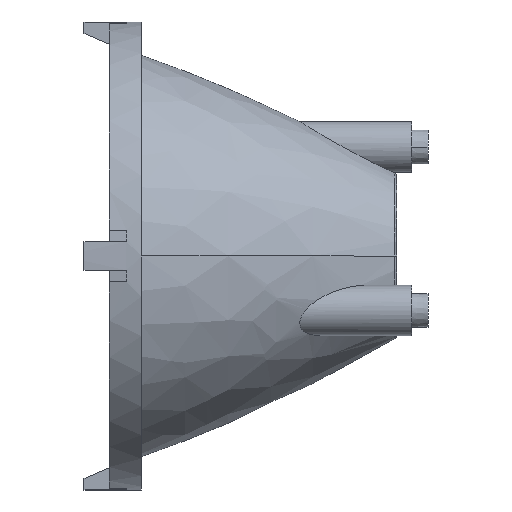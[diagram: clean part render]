
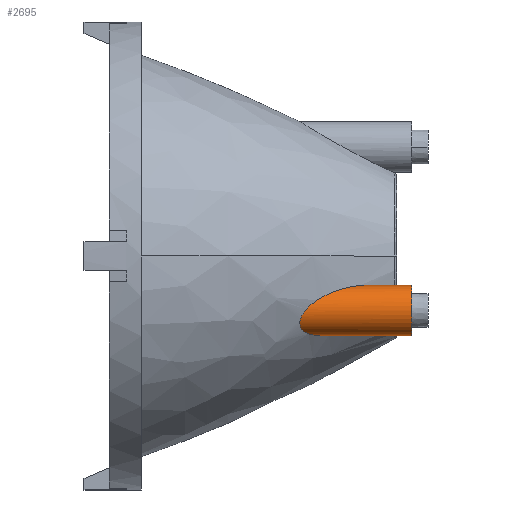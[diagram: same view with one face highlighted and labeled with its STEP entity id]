
A CAD part, left-side view. The second image highlights one B-rep face of the part: STEP entity #2695.
In plain terms, the highlighted cylindrical face has radius 2.2 mm (diameter 4.4 mm), a partial arc.
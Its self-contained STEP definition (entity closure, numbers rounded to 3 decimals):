
#99 = CARTESIAN_POINT ( 'NONE',  ( -8.455, -2.55, -3.703 ) ) ;
#100 = CARTESIAN_POINT ( 'NONE',  ( -8.671, -2.585, -4.092 ) ) ;
#101 = CARTESIAN_POINT ( 'NONE',  ( -9.078, -2.71, -4.869 ) ) ;
#102 = CARTESIAN_POINT ( 'NONE',  ( -9.271, -2.801, -5.257 ) ) ;
#103 = CARTESIAN_POINT ( 'NONE',  ( -9.631, -3.042, -6.033 ) ) ;
#104 = CARTESIAN_POINT ( 'NONE',  ( -9.8, -3.194, -6.423 ) ) ;
#105 = CARTESIAN_POINT ( 'NONE',  ( -8.755, -6.89, -8.04 ) ) ;
#106 = CARTESIAN_POINT ( 'NONE',  ( -8.484, -6.939, -7.685 ) ) ;
#107 = B_SPLINE_CURVE_WITH_KNOTS ( 'NONE', 3,
 ( #113, #112, #106, #105, #117, #174, #173, #172, #171, #142, #141, #140, #116, #115, #114, #135, #134, #133, #132, #111, #110, #109, #108, #104, #103, #102, #101, #100, #99, #170 ),
 .UNSPECIFIED., .F., .F.,
 ( 4, 2, 2, 2, 2, 2, 2, 2, 2, 2, 2, 2, 2, 2, 4 ),
 ( 0.007, 0.007, 0.008, 0.009, 0.009, 0.009, 0.01, 0.01, 0.011, 0.011, 0.012, 0.013, 0.015, 0.016, 0.017 ),
 .UNSPECIFIED. ) ;
#108 = CARTESIAN_POINT ( 'NONE',  ( -10.092, -3.56, -7.18 ) ) ;
#109 = CARTESIAN_POINT ( 'NONE',  ( -10.219, -3.775, -7.551 ) ) ;
#110 = CARTESIAN_POINT ( 'NONE',  ( -10.354, -4.17, -8.081 ) ) ;
#111 = CARTESIAN_POINT ( 'NONE',  ( -10.389, -4.311, -8.251 ) ) ;
#112 = CARTESIAN_POINT ( 'NONE',  ( -8.353, -6.95, -7.502 ) ) ;
#113 = CARTESIAN_POINT ( 'NONE',  ( -8.227, -6.95, -7.316 ) ) ;
#114 = CARTESIAN_POINT ( 'NONE',  ( -10.226, -5.676, -9.148 ) ) ;
#115 = CARTESIAN_POINT ( 'NONE',  ( -10.176, -5.776, -9.16 ) ) ;
#116 = CARTESIAN_POINT ( 'NONE',  ( -10.061, -5.97, -9.156 ) ) ;
#117 = CARTESIAN_POINT ( 'NONE',  ( -8.896, -6.852, -8.213 ) ) ;
#132 = CARTESIAN_POINT ( 'NONE',  ( -10.429, -4.622, -8.569 ) ) ;
#133 = CARTESIAN_POINT ( 'NONE',  ( -10.435, -4.794, -8.719 ) ) ;
#134 = CARTESIAN_POINT ( 'NONE',  ( -10.396, -5.165, -8.97 ) ) ;
#135 = CARTESIAN_POINT ( 'NONE',  ( -10.35, -5.368, -9.072 ) ) ;
#140 = CARTESIAN_POINT ( 'NONE',  ( -9.996, -6.063, -9.139 ) ) ;
#141 = CARTESIAN_POINT ( 'NONE',  ( -9.859, -6.229, -9.081 ) ) ;
#142 = CARTESIAN_POINT ( 'NONE',  ( -9.786, -6.306, -9.04 ) ) ;
#170 = CARTESIAN_POINT ( 'NONE',  ( -8.227, -2.55, -3.317 ) ) ;
#171 = CARTESIAN_POINT ( 'NONE',  ( -9.637, -6.442, -8.939 ) ) ;
#172 = CARTESIAN_POINT ( 'NONE',  ( -9.561, -6.502, -8.88 ) ) ;
#173 = CARTESIAN_POINT ( 'NONE',  ( -9.334, -6.66, -8.686 ) ) ;
#174 = CARTESIAN_POINT ( 'NONE',  ( -9.185, -6.737, -8.535 ) ) ;
#1173 = CARTESIAN_POINT ( 'NONE',  ( -8.227, -4.75, 0.62 ) ) ;
#1176 = DIRECTION ( 'NONE',  ( 0., -1., 0. ) ) ;
#1177 = AXIS2_PLACEMENT_3D ( 'NONE', #1173, #1188, #1176 ) ;
#1178 = CIRCLE ( 'NONE', #1177, 2.2 ) ;
#1188 = DIRECTION ( 'NONE',  ( 0., 0., -1. ) ) ;
#1319 = EDGE_CURVE ( 'NONE', #1524, #1323, #2977, .T. ) ;
#1323 = VERTEX_POINT ( 'NONE', #3004 ) ;
#1376 = VERTEX_POINT ( 'NONE', #3018 ) ;
#1386 = EDGE_CURVE ( 'NONE', #1478, #1376, #2972, .T. ) ;
#1478 = VERTEX_POINT ( 'NONE', #3215 ) ;
#1524 = VERTEX_POINT ( 'NONE', #3444 ) ;
#1529 = EDGE_CURVE ( 'NONE', #1478, #1524, #107, .T. ) ;
#2510 = CYLINDRICAL_SURFACE ( 'NONE', #2518, 2.2 ) ;
#2511 = DIRECTION ( 'NONE',  ( 0., -1., 0. ) ) ;
#2518 = AXIS2_PLACEMENT_3D ( 'NONE', #2520, #2522, #2511 ) ;
#2519 = FACE_OUTER_BOUND ( 'NONE', #2696, .T. ) ;
#2520 = CARTESIAN_POINT ( 'NONE',  ( -8.227, -4.75, -136.316 ) ) ;
#2522 = DIRECTION ( 'NONE',  ( 0., 0., 1. ) ) ;
#2570 = EDGE_CURVE ( 'NONE', #1376, #1323, #1178, .T. ) ;
#2695 = ADVANCED_FACE ( 'NONE', ( #2519 ), #2510, .T. ) ;
#2696 = EDGE_LOOP ( 'NONE', ( #2711, #2697, #2922, #2777 ) ) ;
#2697 = ORIENTED_EDGE ( 'NONE', *, *, #1529, .F. ) ;
#2711 = ORIENTED_EDGE ( 'NONE', *, *, #1319, .F. ) ;
#2777 = ORIENTED_EDGE ( 'NONE', *, *, #2570, .T. ) ;
#2922 = ORIENTED_EDGE ( 'NONE', *, *, #1386, .T. ) ;
#2971 = CARTESIAN_POINT ( 'NONE',  ( -8.227, -6.95, -136.316 ) ) ;
#2972 = LINE ( 'NONE', #2971, #3023 ) ;
#2974 = DIRECTION ( 'NONE',  ( 0., 0., 1. ) ) ;
#2975 = VECTOR ( 'NONE', #2974, 1000. ) ;
#2976 = CARTESIAN_POINT ( 'NONE',  ( -8.227, -2.55, -136.316 ) ) ;
#2977 = LINE ( 'NONE', #2976, #2975 ) ;
#3004 = CARTESIAN_POINT ( 'NONE',  ( -8.227, -2.55, 0.62 ) ) ;
#3018 = CARTESIAN_POINT ( 'NONE',  ( -8.227, -6.95, 0.62 ) ) ;
#3020 = DIRECTION ( 'NONE',  ( 0., 0., 1. ) ) ;
#3023 = VECTOR ( 'NONE', #3020, 1000. ) ;
#3215 = CARTESIAN_POINT ( 'NONE',  ( -8.227, -6.95, -7.316 ) ) ;
#3444 = CARTESIAN_POINT ( 'NONE',  ( -8.227, -2.55, -3.317 ) ) ;
